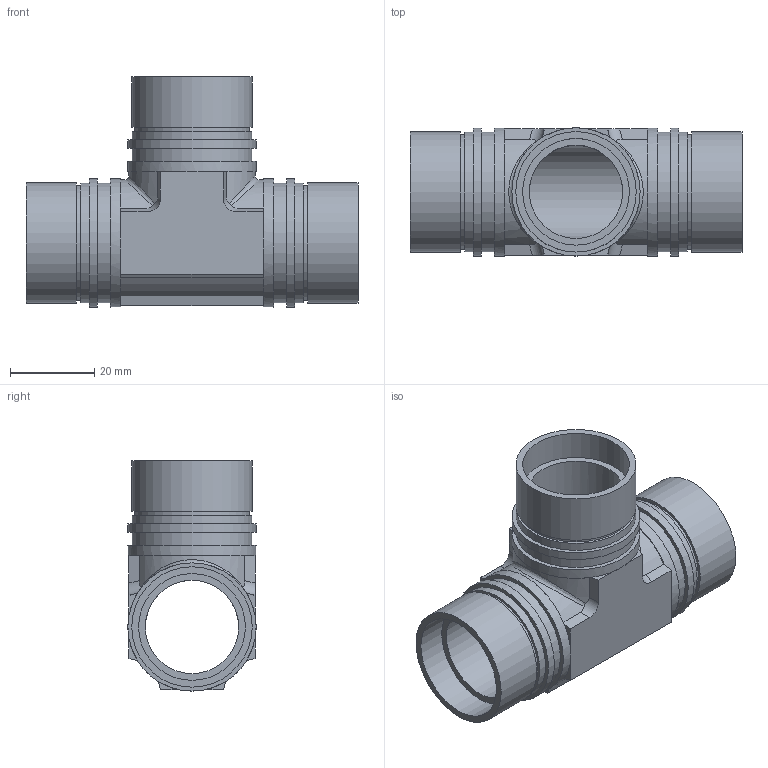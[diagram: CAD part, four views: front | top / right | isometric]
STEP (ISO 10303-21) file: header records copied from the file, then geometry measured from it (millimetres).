
FILE_DESCRIPTION( ( 'Unknown' ), '1' );
FILE_NAME( '//Sv02/01_社内情報/103_技術部/012_図面/図面/電子カタログ-3D/電子カタログ-3D元ファイル(par)/70_3D電子カタログ/05_UT/インチ/70-25.4UT-P.stp', 'Unknown', ( 'Unknown' ), ( 'Unknown' ), 'XStep 1.0', 'Unknown', ' ' );
FILE_SCHEMA( ( 'CONFIG_CONTROL_DESIGN' ) );
Length unit declared in the file: millimetre
Products named in the file (1): 1
Bounding box: 79 x 30.5 x 54.75 mm (x, y, z)
Volume: 27987.9 mm3; surface area: 18924.9 mm2
Topology: 1 solids, 1 shells, 103 faces, 221 edges, 137 vertices
Faces by surface type: plane 68, cylinder 33, bspline 2
Full cylindrical faces by diameter (mm): 22.2 x2, 25.4 x3, 27.35 x3, 28.5 x6, 28.65 x3, 30.5 x6
Entity records: 3184 total; most frequent: CARTESIAN_POINT 978, DIRECTION 476, ORIENTED_EDGE 384, AXIS2_PLACEMENT_3D 194, EDGE_CURVE 192, EDGE_LOOP 148, VERTEX_POINT 132, FACE_OUTER_BOUND 126
